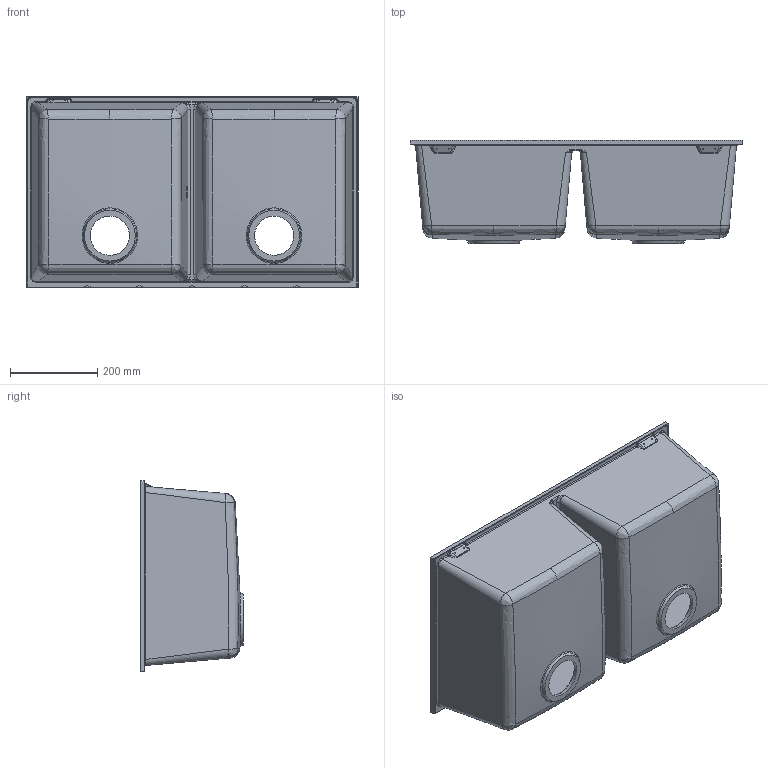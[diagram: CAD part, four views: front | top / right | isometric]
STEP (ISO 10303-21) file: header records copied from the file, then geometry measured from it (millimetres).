
FILE_DESCRIPTION((''),'1');
FILE_NAME('C:/Users/linop/Desktop/VZUM3434AV.stp','2018-05-30T06:06:07',(''),(''),'Spatial Interop R20 SP1','Kubotek KeyCreator V9.0.3 (16864)',' ');
FILE_SCHEMA(('CONFIG_CONTROL_DESIGN'));
Length unit declared in the file: millimetre
Products named in the file (1): 1
Bounding box: 760.04 x 235.3 x 435.04 mm (x, y, z)
Volume: 6788683.1 mm3; surface area: 1696998.1 mm2
Topology: 1 solids, 1 shells, 281 faces, 764 edges, 452 vertices
Faces by surface type: bspline 156, cylinder 58, plane 39, torus 12, cone 10, sphere 6
Full cylindrical faces by diameter (mm): 2.5 x4, 30 x1
Entity records: 13889 total; most frequent: CARTESIAN_POINT 8758, ORIENTED_EDGE 1408, EDGE_CURVE 704, DIRECTION 542, VERTEX_POINT 452, B_SPLINE_CURVE_WITH_KNOTS 403, EDGE_LOOP 314, ADVANCED_FACE 281
